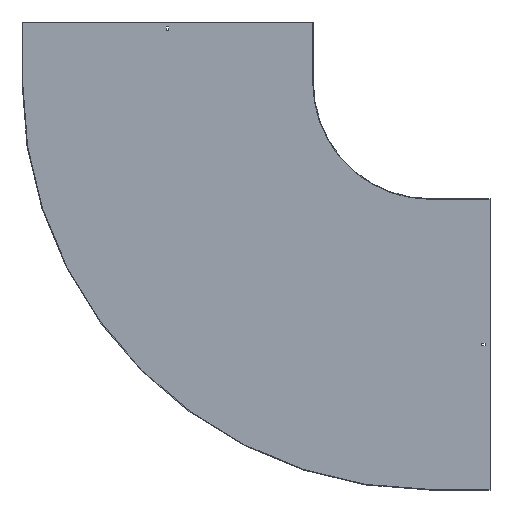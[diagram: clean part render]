
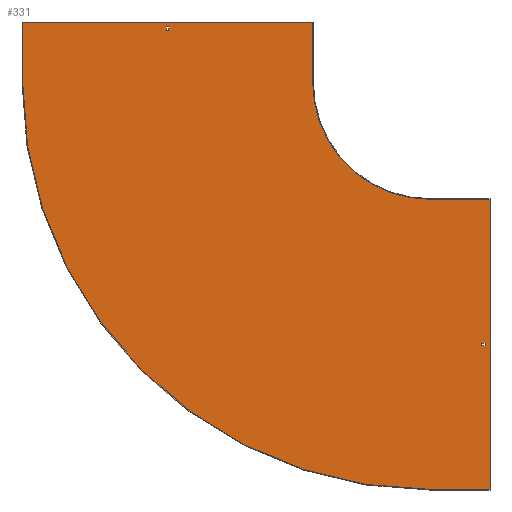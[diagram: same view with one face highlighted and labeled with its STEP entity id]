
A CAD part, front view. The second image highlights one B-rep face of the part: STEP entity #331.
In plain terms, the highlighted planar face has unit normal (0, -1, 0).
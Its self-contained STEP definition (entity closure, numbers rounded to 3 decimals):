
#2 = VERTEX_POINT ( 'NONE', #266 ) ;
#5 = EDGE_CURVE ( 'NONE', #45, #30, #809, .T. ) ;
#7 = DIRECTION ( 'NONE',  ( 1., 0., 0. ) ) ;
#12 = VECTOR ( 'NONE', #634, 1000. ) ;
#13 = ORIENTED_EDGE ( 'NONE', *, *, #714, .T. ) ;
#30 = VERTEX_POINT ( 'NONE', #222 ) ;
#36 = ORIENTED_EDGE ( 'NONE', *, *, #219, .F. ) ;
#42 = VERTEX_POINT ( 'NONE', #76 ) ;
#44 = FACE_BOUND ( 'NONE', #706, .T. ) ;
#45 = VERTEX_POINT ( 'NONE', #547 ) ;
#53 = VERTEX_POINT ( 'NONE', #210 ) ;
#76 = CARTESIAN_POINT ( 'NONE',  ( 138., -1.5, -646.75 ) ) ;
#77 = CARTESIAN_POINT ( 'NONE',  ( 0., -1.5, -646.75 ) ) ;
#106 = DIRECTION ( 'NONE',  ( 0., 0., -1. ) ) ;
#117 = CARTESIAN_POINT ( 'NONE',  ( -646.75, -1.5, 0. ) ) ;
#121 = CARTESIAN_POINT ( 'NONE',  ( 0., -1.5, 0. ) ) ;
#133 = LINE ( 'NONE', #77, #538 ) ;
#135 = VECTOR ( 'NONE', #734, 1000. ) ;
#144 = ORIENTED_EDGE ( 'NONE', *, *, #5, .F. ) ;
#146 = EDGE_CURVE ( 'NONE', #646, #572, #363, .T. ) ;
#149 = ORIENTED_EDGE ( 'NONE', *, *, #647, .F. ) ;
#177 = FACE_OUTER_BOUND ( 'NONE', #395, .T. ) ;
#178 = ORIENTED_EDGE ( 'NONE', *, *, #364, .F. ) ;
#181 = VECTOR ( 'NONE', #811, 1000. ) ;
#185 = CARTESIAN_POINT ( 'NONE',  ( -646.75, -1.5, 138. ) ) ;
#186 = VERTEX_POINT ( 'NONE', #573 ) ;
#189 = DIRECTION ( 'NONE',  ( -1., 0., 0. ) ) ;
#192 = CARTESIAN_POINT ( 'NONE',  ( 0., -1.5, -1010. ) ) ;
#210 = CARTESIAN_POINT ( 'NONE',  ( 150., -1.5, -290. ) ) ;
#213 = VECTOR ( 'NONE', #106, 1000. ) ;
#219 = EDGE_CURVE ( 'NONE', #2, #45, #565, .T. ) ;
#222 = CARTESIAN_POINT ( 'NONE',  ( -290., -1.5, 150. ) ) ;
#225 = ORIENTED_EDGE ( 'NONE', *, *, #382, .F. ) ;
#237 = CARTESIAN_POINT ( 'NONE',  ( 0., -1.5, -290. ) ) ;
#249 = DIRECTION ( 'NONE',  ( 0., -1., 0. ) ) ;
#256 = DIRECTION ( 'NONE',  ( 0., 0., -1. ) ) ;
#259 = EDGE_CURVE ( 'NONE', #273, #642, #389, .T. ) ;
#263 = LINE ( 'NONE', #556, #823 ) ;
#266 = CARTESIAN_POINT ( 'NONE',  ( -1010., -1.5, 0. ) ) ;
#270 = AXIS2_PLACEMENT_3D ( 'NONE', #574, #825, #304 ) ;
#271 = LINE ( 'NONE', #472, #181 ) ;
#273 = VERTEX_POINT ( 'NONE', #185 ) ;
#274 = ORIENTED_EDGE ( 'NONE', *, *, #314, .F. ) ;
#279 = CARTESIAN_POINT ( 'NONE',  ( -1011.5, -1.5, 150. ) ) ;
#280 = EDGE_CURVE ( 'NONE', #479, #352, #319, .T. ) ;
#291 = ORIENTED_EDGE ( 'NONE', *, *, #146, .F. ) ;
#304 = DIRECTION ( 'NONE',  ( 0., 0., -1. ) ) ;
#310 = CARTESIAN_POINT ( 'NONE',  ( 150., -1.5, -1010. ) ) ;
#314 = EDGE_CURVE ( 'NONE', #352, #2, #553, .T. ) ;
#315 = DIRECTION ( 'NONE',  ( 0., 0., -1. ) ) ;
#319 = LINE ( 'NONE', #310, #726 ) ;
#329 = LINE ( 'NONE', #540, #703 ) ;
#331 = ADVANCED_FACE ( 'NONE', ( #656, #177, #44 ), #774, .T. ) ;
#332 = DIRECTION ( 'NONE',  ( 0., 0., 1. ) ) ;
#341 = VERTEX_POINT ( 'NONE', #527 ) ;
#352 = VERTEX_POINT ( 'NONE', #192 ) ;
#355 = AXIS2_PLACEMENT_3D ( 'NONE', #530, #249, #518 ) ;
#363 = LINE ( 'NONE', #710, #369 ) ;
#364 = EDGE_CURVE ( 'NONE', #53, #479, #645, .T. ) ;
#365 = CARTESIAN_POINT ( 'NONE',  ( 129., -1.5, -653.25 ) ) ;
#367 = CARTESIAN_POINT ( 'NONE',  ( -1010., -1.5, 0. ) ) ;
#368 = CARTESIAN_POINT ( 'NONE',  ( -290., -1.5, 0. ) ) ;
#369 = VECTOR ( 'NONE', #702, 1000. ) ;
#382 = EDGE_CURVE ( 'NONE', #30, #550, #414, .T. ) ;
#388 = CARTESIAN_POINT ( 'NONE',  ( 129., -1.5, -646.75 ) ) ;
#389 = LINE ( 'NONE', #117, #716 ) ;
#392 = DIRECTION ( 'NONE',  ( 0., 0., 1. ) ) ;
#395 = EDGE_LOOP ( 'NONE', ( #144, #36, #274, #674, #178, #411, #684, #225 ) ) ;
#396 = LINE ( 'NONE', #587, #512 ) ;
#398 = EDGE_LOOP ( 'NONE', ( #697, #149, #473, #291 ) ) ;
#409 = EDGE_CURVE ( 'NONE', #642, #341, #329, .T. ) ;
#411 = ORIENTED_EDGE ( 'NONE', *, *, #446, .F. ) ;
#414 = LINE ( 'NONE', #617, #135 ) ;
#431 = EDGE_CURVE ( 'NONE', #572, #186, #263, .T. ) ;
#446 = EDGE_CURVE ( 'NONE', #564, #53, #673, .T. ) ;
#450 = EDGE_CURVE ( 'NONE', #615, #273, #271, .T. ) ;
#453 = CARTESIAN_POINT ( 'NONE',  ( 150., -1.5, -288.5 ) ) ;
#468 = ORIENTED_EDGE ( 'NONE', *, *, #409, .T. ) ;
#472 = CARTESIAN_POINT ( 'NONE',  ( 0., -1.5, 138. ) ) ;
#473 = ORIENTED_EDGE ( 'NONE', *, *, #431, .F. ) ;
#479 = VERTEX_POINT ( 'NONE', #609 ) ;
#485 = CARTESIAN_POINT ( 'NONE',  ( 0., -1.5, -290. ) ) ;
#492 = DIRECTION ( 'NONE',  ( 1., 0., 0. ) ) ;
#512 = VECTOR ( 'NONE', #392, 1000. ) ;
#513 = CARTESIAN_POINT ( 'NONE',  ( -646.75, -1.5, 129. ) ) ;
#518 = DIRECTION ( 'NONE',  ( 0., 0., -1. ) ) ;
#524 = VECTOR ( 'NONE', #332, 1000. ) ;
#527 = CARTESIAN_POINT ( 'NONE',  ( -653.25, -1.5, 129. ) ) ;
#528 = EDGE_CURVE ( 'NONE', #550, #564, #571, .T. ) ;
#530 = CARTESIAN_POINT ( 'NONE',  ( 0., -1.5, 0. ) ) ;
#537 = VECTOR ( 'NONE', #492, 1000. ) ;
#538 = VECTOR ( 'NONE', #616, 1000. ) ;
#540 = CARTESIAN_POINT ( 'NONE',  ( 0., -1.5, 129. ) ) ;
#542 = CARTESIAN_POINT ( 'NONE',  ( -653.25, -1.5, 0. ) ) ;
#547 = CARTESIAN_POINT ( 'NONE',  ( -1010., -1.5, 150. ) ) ;
#550 = VERTEX_POINT ( 'NONE', #368 ) ;
#553 = CIRCLE ( 'NONE', #770, 1010. ) ;
#556 = CARTESIAN_POINT ( 'NONE',  ( 0., -1.5, -653.25 ) ) ;
#564 = VERTEX_POINT ( 'NONE', #237 ) ;
#565 = LINE ( 'NONE', #367, #12 ) ;
#571 = CIRCLE ( 'NONE', #270, 290. ) ;
#572 = VERTEX_POINT ( 'NONE', #365 ) ;
#573 = CARTESIAN_POINT ( 'NONE',  ( 138., -1.5, -653.25 ) ) ;
#574 = CARTESIAN_POINT ( 'NONE',  ( 0., -1.5, 0. ) ) ;
#587 = CARTESIAN_POINT ( 'NONE',  ( 138., -1.5, 0. ) ) ;
#599 = ORIENTED_EDGE ( 'NONE', *, *, #259, .T. ) ;
#601 = DIRECTION ( 'NONE',  ( -1., 0., 0. ) ) ;
#609 = CARTESIAN_POINT ( 'NONE',  ( 150., -1.5, -1010. ) ) ;
#615 = VERTEX_POINT ( 'NONE', #661 ) ;
#616 = DIRECTION ( 'NONE',  ( -1., 0., 0. ) ) ;
#617 = CARTESIAN_POINT ( 'NONE',  ( -290., -1.5, 150. ) ) ;
#634 = DIRECTION ( 'NONE',  ( 0., 0., 1. ) ) ;
#642 = VERTEX_POINT ( 'NONE', #513 ) ;
#645 = LINE ( 'NONE', #453, #213 ) ;
#646 = VERTEX_POINT ( 'NONE', #388 ) ;
#647 = EDGE_CURVE ( 'NONE', #186, #42, #396, .T. ) ;
#656 = FACE_BOUND ( 'NONE', #398, .T. ) ;
#661 = CARTESIAN_POINT ( 'NONE',  ( -653.25, -1.5, 138. ) ) ;
#673 = LINE ( 'NONE', #485, #810 ) ;
#674 = ORIENTED_EDGE ( 'NONE', *, *, #280, .F. ) ;
#684 = ORIENTED_EDGE ( 'NONE', *, *, #528, .F. ) ;
#697 = ORIENTED_EDGE ( 'NONE', *, *, #812, .F. ) ;
#702 = DIRECTION ( 'NONE',  ( 0., 0., -1. ) ) ;
#703 = VECTOR ( 'NONE', #601, 1000. ) ;
#706 = EDGE_LOOP ( 'NONE', ( #861, #599, #468, #13 ) ) ;
#710 = CARTESIAN_POINT ( 'NONE',  ( 129., -1.5, 0. ) ) ;
#714 = EDGE_CURVE ( 'NONE', #341, #615, #807, .T. ) ;
#716 = VECTOR ( 'NONE', #315, 1000. ) ;
#726 = VECTOR ( 'NONE', #189, 1000. ) ;
#734 = DIRECTION ( 'NONE',  ( 0., 0., -1. ) ) ;
#748 = DIRECTION ( 'NONE',  ( 1., 0., 0. ) ) ;
#770 = AXIS2_PLACEMENT_3D ( 'NONE', #121, #851, #256 ) ;
#774 = PLANE ( 'NONE',  #355 ) ;
#807 = LINE ( 'NONE', #542, #524 ) ;
#809 = LINE ( 'NONE', #279, #537 ) ;
#810 = VECTOR ( 'NONE', #748, 1000. ) ;
#811 = DIRECTION ( 'NONE',  ( 1., 0., 0. ) ) ;
#812 = EDGE_CURVE ( 'NONE', #42, #646, #133, .T. ) ;
#823 = VECTOR ( 'NONE', #7, 1000. ) ;
#825 = DIRECTION ( 'NONE',  ( 0., -1., 0. ) ) ;
#851 = DIRECTION ( 'NONE',  ( 0., 1., 0. ) ) ;
#861 = ORIENTED_EDGE ( 'NONE', *, *, #450, .T. ) ;
